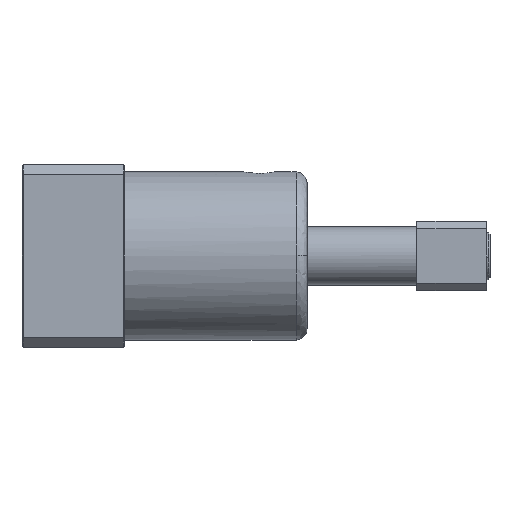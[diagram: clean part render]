
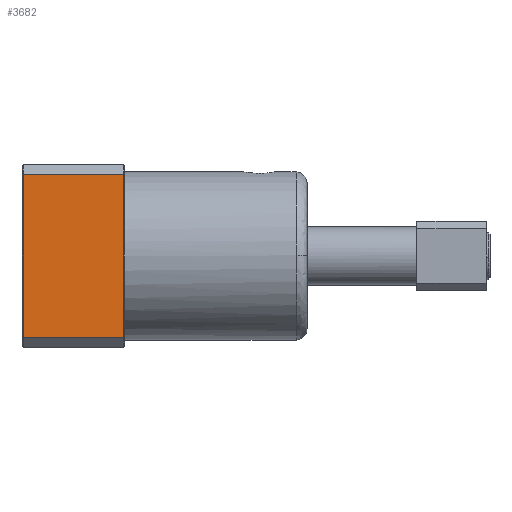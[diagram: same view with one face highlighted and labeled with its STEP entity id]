
A CAD part, front view. The second image highlights one B-rep face of the part: STEP entity #3682.
In plain terms, the highlighted planar face has unit normal (0, -1, 0).
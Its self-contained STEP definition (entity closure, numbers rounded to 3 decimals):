
#3682 = ADVANCED_FACE ( 'NONE', ( #13638 ), #29142, .T. ) ;
#4119 = EDGE_LOOP ( 'NONE', ( #5424, #5426, #5425, #5427 ) ) ;
#5099 = EDGE_CURVE ( 'NONE', #8463, #8470, #11451, .T. ) ;
#5119 = EDGE_CURVE ( 'NONE', #8451, #8472, #13783, .T. ) ;
#5120 = EDGE_CURVE ( 'NONE', #8472, #8470, #11465, .T. ) ;
#5121 = EDGE_CURVE ( 'NONE', #8463, #8451, #11466, .T. ) ;
#5424 = ORIENTED_EDGE ( 'NONE', *, *, #5120, .F. ) ;
#5425 = ORIENTED_EDGE ( 'NONE', *, *, #5121, .F. ) ;
#5426 = ORIENTED_EDGE ( 'NONE', *, *, #5119, .F. ) ;
#5427 = ORIENTED_EDGE ( 'NONE', *, *, #5099, .T. ) ;
#8451 = VERTEX_POINT ( 'NONE', #52457 ) ;
#8463 = VERTEX_POINT ( 'NONE', #52469 ) ;
#8470 = VERTEX_POINT ( 'NONE', #52476 ) ;
#8472 = VERTEX_POINT ( 'NONE', #52478 ) ;
#9209 = VECTOR ( 'NONE', #22963, 1000. ) ;
#11451 = B_SPLINE_CURVE_WITH_KNOTS ( 'NONE', 3,
 ( #22395, #22396, #22397, #22398 ),
 .UNSPECIFIED., .F., .F.,
 ( 4, 4 ),
 ( 0., 1. ),
 .UNSPECIFIED. ) ;
#11465 = B_SPLINE_CURVE_WITH_KNOTS ( 'NONE', 3,
 ( #22964, #22965, #22966, #22967 ),
 .UNSPECIFIED., .F., .F.,
 ( 4, 4 ),
 ( 0., 1. ),
 .UNSPECIFIED. ) ;
#11466 = B_SPLINE_CURVE_WITH_KNOTS ( 'NONE', 3,
 ( #22968, #22969, #22970, #22971 ),
 .UNSPECIFIED., .F., .F.,
 ( 4, 4 ),
 ( 0., 1. ),
 .UNSPECIFIED. ) ;
#13638 = FACE_OUTER_BOUND ( 'NONE', #4119, .T. ) ;
#13783 = LINE ( 'NONE', #22962, #9209 ) ;
#22395 = CARTESIAN_POINT ( 'NONE',  ( 0.3, -25., 22.3 ) ) ;
#22396 = CARTESIAN_POINT ( 'NONE',  ( 0.3, -25., 7.433 ) ) ;
#22397 = CARTESIAN_POINT ( 'NONE',  ( 0.3, -25., -7.433 ) ) ;
#22398 = CARTESIAN_POINT ( 'NONE',  ( 0.3, -25., -22.3 ) ) ;
#22962 = CARTESIAN_POINT ( 'NONE',  ( 27.7, -25., 0. ) ) ;
#22963 = DIRECTION ( 'NONE',  ( 0., 0., -1. ) ) ;
#22964 = CARTESIAN_POINT ( 'NONE',  ( 27.7, -25., -22.3 ) ) ;
#22965 = CARTESIAN_POINT ( 'NONE',  ( 18.567, -25., -22.3 ) ) ;
#22966 = CARTESIAN_POINT ( 'NONE',  ( 9.433, -25., -22.3 ) ) ;
#22967 = CARTESIAN_POINT ( 'NONE',  ( 0.3, -25., -22.3 ) ) ;
#22968 = CARTESIAN_POINT ( 'NONE',  ( 0.3, -25., 22.3 ) ) ;
#22969 = CARTESIAN_POINT ( 'NONE',  ( 9.433, -25., 22.3 ) ) ;
#22970 = CARTESIAN_POINT ( 'NONE',  ( 18.567, -25., 22.3 ) ) ;
#22971 = CARTESIAN_POINT ( 'NONE',  ( 27.7, -25., 22.3 ) ) ;
#29142 = PLANE ( 'NONE',  #53467 ) ;
#29144 = CARTESIAN_POINT ( 'NONE',  ( 0., -25., 22.3 ) ) ;
#29146 = DIRECTION ( 'NONE',  ( 0., -1., 0. ) ) ;
#29148 = DIRECTION ( 'NONE',  ( 0., 0., -1. ) ) ;
#52457 = CARTESIAN_POINT ( 'NONE',  ( 27.7, -25., 22.3 ) ) ;
#52469 = CARTESIAN_POINT ( 'NONE',  ( 0.3, -25., 22.3 ) ) ;
#52476 = CARTESIAN_POINT ( 'NONE',  ( 0.3, -25., -22.3 ) ) ;
#52478 = CARTESIAN_POINT ( 'NONE',  ( 27.7, -25., -22.3 ) ) ;
#53467 = AXIS2_PLACEMENT_3D ( 'NONE', #29144, #29146, #29148 ) ;
